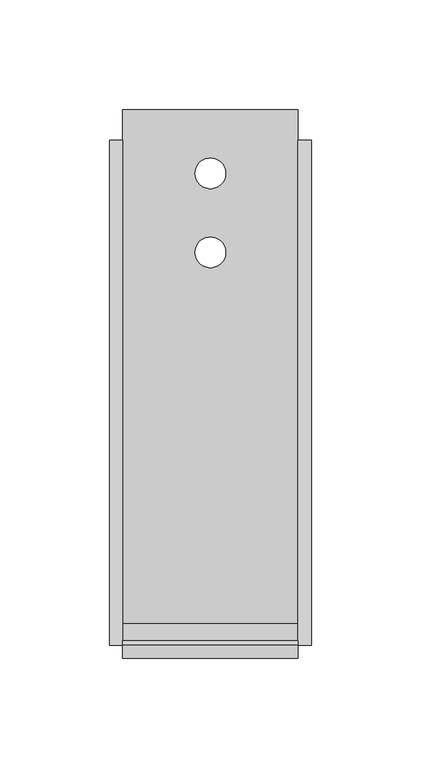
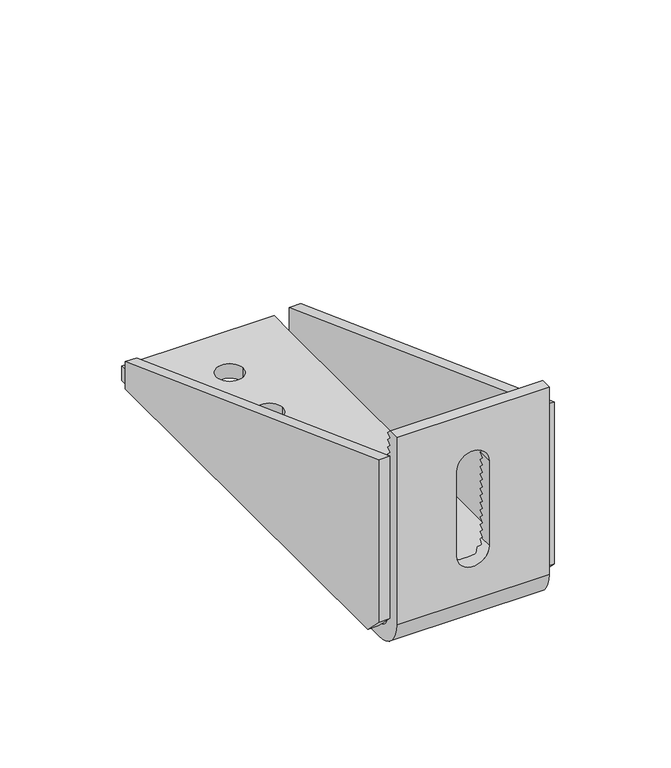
"""IFC4 building model written with IfcOpenShell, lengths in millimetres: fastener geometry, REC-PARA2501208RT : PARA2501208RT."""

from ifc_helpers import new_model, si_unit, frame, origin, place, context, project, spatial, polyline, circle_curve, ellipse_curve, source, transform, mapped, element, save
from ifc_brep_helpers import plane_surface, cylinder_surface, revolved_surface, advanced_brep


def fastener_ba279adf(model_context):
    return source(origin(), model_context, "Body", "AdvancedBrep", [
        advanced_brep(
        [(-40.0, 6.0, 120.0), (-40.0, 8.0, 118.0), (-40.0, 6.0, 116.0), (-40.0, 8.0, 114.0), (-40.0, 6.0, 112.0), (-40.0, 8.0, 110.0), (-40.0, 6.0, 108.0), (-40.0, 8.0, 106.0), (-40.0, 7.4603175, 105.4603175), (-40.0, 6.0, 106.0), (-40.0, 6.0, 104.0), (-40.0, 6.0, 100.0), (-40.0, 6.0, 96.0), (-40.0, 6.0, 92.0), (-40.0, 6.0, 88.0), (-40.0, 6.0, 84.0), (-40.0, 6.0, 80.0), (-40.0, 6.0, 76.0), (-40.0, 6.0, 72.0), (-40.0, 6.0, 68.0), (-40.0, 6.0, 64.0), (-40.0, 6.0, 60.0), (-40.0, 6.0, 56.0), (-40.0, 6.0, 52.0), (-40.0, 6.0, 48.0), (-40.0, 6.0, 44.0), (-40.0, 6.0, 40.0), (-40.0, 6.0, 36.0), (-40.0, 6.0, 32.0), (-40.0, 6.0, 28.0), (-40.0, 6.0, 24.0), (-40.0, 6.0, 16.0), (-40.0, 8.3542487, 13.6457513), (-40.0, 13.6457513, 8.3542487), (-40.0, 16.0, 6.0), (-40.0, 236.0, 6.0), (-40.0, 236.0, 8.0), (-40.0, 250.0, 8.0), (-40.0, 250.0, 0.0), (-40.0, 16.0, 0.0), (-40.0, 0.0, 16.0), (-40.0, 0.0, 120.0), (40.0, 6.0, 120.0), (40.0, 0.0, 120.0), (40.0, 0.0, 16.0), (40.0, 16.0, 0.0), (40.0, 250.0, 0.0), (40.0, 250.0, 8.0), (40.0, 236.0, 8.0), (40.0, 236.0, 6.0), (40.0, 16.0, 6.0), (40.0, 13.6457513, 8.3542487), (40.0, 8.3542487, 13.6457513), (40.0, 6.0, 16.0), (40.0, 6.0, 24.0), (40.0, 6.0, 28.0), (40.0, 6.0, 32.0), (40.0, 6.0, 36.0), (40.0, 6.0, 40.0), (40.0, 6.0, 44.0), (40.0, 6.0, 48.0), (40.0, 6.0, 52.0), (40.0, 6.0, 56.0), (40.0, 6.0, 60.0), (40.0, 6.0, 64.0), (40.0, 6.0, 68.0), (40.0, 6.0, 72.0), (40.0, 6.0, 76.0), (40.0, 6.0, 80.0), (40.0, 6.0, 84.0), (40.0, 6.0, 88.0), (40.0, 6.0, 92.0), (40.0, 6.0, 96.0), (40.0, 6.0, 100.0), (40.0, 6.0, 104.0), (40.0, 6.0, 106.0), (40.0, 7.4603175, 105.4603175), (40.0, 8.0, 106.0), (40.0, 6.0, 108.0), (40.0, 8.0, 110.0), (40.0, 6.0, 112.0), (40.0, 8.0, 114.0), (40.0, 6.0, 116.0), (40.0, 8.0, 118.0), (-8.5, 0.0, 90.0), (8.5, 0.0, 90.0), (8.5, 0.0, 43.0), (-8.5, 0.0, 43.0), (7.0, 221.0, 0.0), (-7.0, 221.0, 0.0), (7.0, 185.0, 0.0), (-7.0, 185.0, 0.0), (-40.0, 16.0, 8.0), (40.0, 16.0, 8.0), (-7.0, 221.0, 8.0), (7.0, 221.0, 8.0), (-7.0, 185.0, 8.0), (7.0, 185.0, 8.0), (-8.5, 7.0, 43.0), (-8.5, 6.0, 44.0), (-8.5, 8.0, 46.0), (-8.5, 6.0, 48.0), (-8.5, 8.0, 50.0), (-8.5, 6.0, 52.0), (-8.5, 8.0, 54.0), (-8.5, 6.0, 56.0), (-8.5, 8.0, 58.0), (-8.5, 6.0, 60.0), (-8.5, 8.0, 62.0), (-8.5, 6.0, 64.0), (-8.5, 8.0, 66.0), (-8.5, 6.0, 68.0), (-8.5, 8.0, 70.0), (-8.5, 6.0, 72.0), (-8.5, 8.0, 74.0), (-8.5, 6.0, 76.0), (-8.5, 8.0, 78.0), (-8.5, 6.0, 80.0), (-8.5, 8.0, 82.0), (-8.5, 6.0, 84.0), (-8.5, 8.0, 86.0), (-8.5, 6.0, 88.0), (-8.5, 8.0, 90.0), (8.5, 7.0, 43.0), (8.4409715, 8.0, 42.0), (7.9529869, 6.0, 40.0), (6.8738635, 8.0, 38.0), (4.8218254, 6.0, 36.0), (-4.8218254, 6.0, 36.0), (-6.8738635, 8.0, 38.0), (-7.9529869, 6.0, 40.0), (-8.4409715, 8.0, 42.0), (8.5, 8.0, 90.0), (8.5, 6.0, 88.0), (8.5, 8.0, 86.0), (8.5, 6.0, 84.0), (8.5, 8.0, 82.0), (8.5, 6.0, 80.0), (8.5, 8.0, 78.0), (8.5, 6.0, 76.0), (8.5, 8.0, 74.0), (8.5, 6.0, 72.0), (8.5, 8.0, 70.0), (8.5, 6.0, 68.0), (8.5, 8.0, 66.0), (8.5, 6.0, 64.0), (8.5, 8.0, 62.0), (8.5, 6.0, 60.0), (8.5, 8.0, 58.0), (8.5, 6.0, 56.0), (8.5, 8.0, 54.0), (8.5, 6.0, 52.0), (8.5, 8.0, 50.0), (8.5, 6.0, 48.0), (8.5, 8.0, 46.0), (8.5, 6.0, 44.0), (-8.2613558, 6.0, 92.0), (-7.5, 8.0, 94.0), (-6.0207973, 6.0, 96.0), (-2.8722813, 8.0, 98.0), (2.8722813, 8.0, 98.0), (6.0207973, 6.0, 96.0), (7.5, 8.0, 94.0), (8.2613558, 6.0, 92.0), (-40.0, 8.0, 16.0), (40.0, 8.0, 16.0), (-40.0, 8.0, 24.0), (40.0, 8.0, 24.0), (-40.0, 6.0, 24.0), (40.0, 6.0, 24.0), (46.0, 6.0, 106.0), (46.0, 6.0, 16.0), (46.0, 16.0, 6.0), (46.0, 236.0, 6.0), (46.0, 236.0, 21.0), (40.0, 236.0, 21.0), (40.0, 8.0, 26.0), (40.0, 6.0, 28.0), (40.0, 8.0, 30.0), (40.0, 6.0, 32.0), (40.0, 8.0, 34.0), (40.0, 6.0, 36.0), (40.0, 8.0, 38.0), (40.0, 6.0, 40.0), (40.0, 8.0, 42.0), (40.0, 6.0, 44.0), (40.0, 8.0, 46.0), (40.0, 6.0, 48.0), (40.0, 8.0, 50.0), (40.0, 6.0, 52.0), (40.0, 8.0, 54.0), (40.0, 6.0, 56.0), (40.0, 8.0, 58.0), (40.0, 6.0, 60.0), (40.0, 8.0, 62.0), (40.0, 6.0, 64.0), (40.0, 8.0, 66.0), (40.0, 6.0, 68.0), (40.0, 8.0, 70.0), (40.0, 6.0, 72.0), (40.0, 8.0, 74.0), (40.0, 6.0, 76.0), (40.0, 8.0, 78.0), (40.0, 6.0, 80.0), (40.0, 8.0, 82.0), (40.0, 6.0, 84.0), (40.0, 8.0, 86.0), (40.0, 6.0, 88.0), (40.0, 8.0, 90.0), (40.0, 6.0, 92.0), (40.0, 8.0, 94.0), (40.0, 6.0, 96.0), (40.0, 8.0, 98.0), (40.0, 6.0, 100.0), (40.0, 8.0, 102.0), (40.0, 6.0, 104.0), (-40.0, 236.0, 21.0), (-40.0, 6.0, 104.0), (-40.0, 8.0, 102.0), (-40.0, 6.0, 100.0), (-40.0, 8.0, 98.0), (-40.0, 6.0, 96.0), (-40.0, 8.0, 94.0), (-40.0, 6.0, 92.0), (-40.0, 8.0, 90.0), (-40.0, 6.0, 88.0), (-40.0, 8.0, 86.0), (-40.0, 6.0, 84.0), (-40.0, 8.0, 82.0), (-40.0, 6.0, 80.0), (-40.0, 8.0, 78.0), (-40.0, 6.0, 76.0), (-40.0, 8.0, 74.0), (-40.0, 6.0, 72.0), (-40.0, 8.0, 70.0), (-40.0, 6.0, 68.0), (-40.0, 8.0, 66.0), (-40.0, 6.0, 64.0), (-40.0, 8.0, 62.0), (-40.0, 6.0, 60.0), (-40.0, 8.0, 58.0), (-40.0, 6.0, 56.0), (-40.0, 8.0, 54.0), (-40.0, 6.0, 52.0), (-40.0, 8.0, 50.0), (-40.0, 6.0, 48.0), (-40.0, 8.0, 46.0), (-40.0, 6.0, 44.0), (-40.0, 8.0, 42.0), (-40.0, 6.0, 40.0), (-40.0, 8.0, 38.0), (-40.0, 6.0, 36.0), (-40.0, 8.0, 34.0), (-40.0, 6.0, 32.0), (-40.0, 8.0, 30.0), (-40.0, 6.0, 28.0), (-40.0, 8.0, 26.0), (-46.0, 6.0, 106.0), (-46.0, 236.0, 21.0), (-46.0, 236.0, 6.0), (-46.0, 16.0, 6.0), (-46.0, 6.0, 16.0)],
        [
            (0, 1),
            (1, 2),
            (2, 3),
            (3, 4),
            (4, 5),
            (5, 6),
            (6, 7),
            (7, 8),
            (8, 9),
            (9, 10),
            (10, 11),
            (11, 12),
            (12, 13),
            (13, 14),
            (14, 15),
            (15, 16),
            (16, 17),
            (17, 18),
            (18, 19),
            (19, 20),
            (20, 21),
            (21, 22),
            (22, 23),
            (23, 24),
            (24, 25),
            (25, 26),
            (26, 27),
            (27, 28),
            (28, 29),
            (29, 30),
            (30, 31),
            (31, 32),
            (32, 33, circle_curve(frame((-40.0, 16.0, 16.0), z_axis=(1.0, 0.0, 0.0), x_axis=(0.0, -1.0, 0.0)), 8.0)),
            (33, 34),
            (34, 35),
            (35, 36),
            (36, 37),
            (37, 38),
            (38, 39),
            (39, 40, circle_curve(frame((-40.0, 16.0, 16.0), z_axis=(-1.0, 0.0, 0.0), x_axis=(0.0, -1.0, 0.0)), 16.0)),
            (40, 41),
            (41, 0),
            (42, 43),
            (43, 44),
            (44, 45, circle_curve(frame((40.0, 16.0, 16.0), z_axis=(1.0, 0.0, 0.0), x_axis=(0.0, -1.0, 0.0)), 16.0)),
            (45, 46),
            (46, 47),
            (47, 48),
            (48, 49),
            (49, 50),
            (50, 51),
            (51, 52, circle_curve(frame((40.0, 16.0, 16.0), z_axis=(-1.0, 0.0, 0.0), x_axis=(0.0, -1.0, 0.0)), 8.0)),
            (52, 53),
            (53, 54),
            (54, 55),
            (55, 56),
            (56, 57),
            (57, 58),
            (58, 59),
            (59, 60),
            (60, 61),
            (61, 62),
            (62, 63),
            (63, 64),
            (64, 65),
            (65, 66),
            (66, 67),
            (67, 68),
            (68, 69),
            (69, 70),
            (70, 71),
            (71, 72),
            (72, 73),
            (73, 74),
            (74, 75),
            (75, 76),
            (76, 77),
            (77, 78),
            (78, 79),
            (79, 80),
            (80, 81),
            (81, 82),
            (82, 83),
            (83, 42),
            (41, 43),
            (42, 0),
            (40, 44),
            (84, 85, circle_curve(frame((0.0, 0.0, 90.0), z_axis=(0.0, 1.0, 0.0), x_axis=(-1.0, 0.0, 0.0)), 8.5)),
            (85, 86),
            (86, 87, circle_curve(frame((0.0, 0.0, 43.0), z_axis=(0.0, 1.0, 0.0), x_axis=(-1.0, 0.0, 0.0)), 8.5)),
            (87, 84),
            (38, 46),
            (45, 39),
            (88, 89, circle_curve(frame((0.0, 221.0, 0.0), z_axis=(0.0, 0.0, 1.0), x_axis=(-1.0, 0.0, 0.0)), 7.0)),
            (89, 88, circle_curve(frame((0.0, 221.0, 0.0), z_axis=(0.0, 0.0, 1.0), x_axis=(-1.0, 0.0, 0.0)), 7.0)),
            (90, 91, circle_curve(frame((0.0, 185.0, 0.0), z_axis=(0.0, 0.0, 1.0), x_axis=(-1.0, 0.0, 0.0)), 7.0)),
            (91, 90, circle_curve(frame((0.0, 185.0, 0.0), z_axis=(0.0, 0.0, 1.0), x_axis=(-1.0, 0.0, 0.0)), 7.0)),
            (37, 47),
            (36, 92),
            (92, 93),
            (93, 48),
            (94, 95, circle_curve(frame((0.0, 221.0, 8.0), z_axis=(0.0, 0.0, -1.0), x_axis=(-1.0, 0.0, 0.0)), 7.0)),
            (95, 94, circle_curve(frame((0.0, 221.0, 8.0), z_axis=(0.0, 0.0, -1.0), x_axis=(-1.0, 0.0, 0.0)), 7.0)),
            (96, 97, circle_curve(frame((0.0, 185.0, 8.0), z_axis=(0.0, 0.0, -1.0), x_axis=(-1.0, 0.0, 0.0)), 7.0)),
            (97, 96, circle_curve(frame((0.0, 185.0, 8.0), z_axis=(0.0, 0.0, -1.0), x_axis=(-1.0, 0.0, 0.0)), 7.0)),
            (87, 98),
            (98, 99),
            (99, 100),
            (100, 101),
            (101, 102),
            (102, 103),
            (103, 104),
            (104, 105),
            (105, 106),
            (106, 107),
            (107, 108),
            (108, 109),
            (109, 110),
            (110, 111),
            (111, 112),
            (112, 113),
            (113, 114),
            (114, 115),
            (115, 116),
            (116, 117),
            (117, 118),
            (118, 119),
            (119, 120),
            (120, 121),
            (121, 122),
            (122, 84),
            (86, 123),
            (123, 124, ellipse_curve(frame((0.0, 7.0, 43.0), z_axis=(0.0, 0.7071067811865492, 0.7071067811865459), x_axis=(0.0, -0.7071067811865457, 0.7071067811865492)), 12.0208153, 8.5)),
            (124, 125, ellipse_curve(frame((0.0, 9.0, 43.0), z_axis=(0.0, 0.7071067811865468, -0.7071067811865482), x_axis=(0.0, -0.7071067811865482, -0.7071067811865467)), 12.0208153, 8.5)),
            (125, 126, ellipse_curve(frame((0.0, 3.0, 43.0), z_axis=(0.0, 0.7071067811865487, 0.7071067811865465), x_axis=(0.0, -0.7071067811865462, 0.7071067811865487)), 12.0208153, 8.5)),
            (126, 127, ellipse_curve(frame((0.0, 13.0, 43.0), z_axis=(0.0, 0.7071067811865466, -0.7071067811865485), x_axis=(0.0, -0.7071067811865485, -0.7071067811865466)), 12.0208153, 8.5)),
            (127, 128, ellipse_curve(frame((0.0, -1.0, 43.0), z_axis=(0.0, 0.7071067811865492, 0.7071067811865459), x_axis=(0.0, -0.7071067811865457, 0.7071067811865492)), 12.0208153, 8.5)),
            (128, 129, ellipse_curve(frame((0.0, 13.0, 43.0), z_axis=(0.0, 0.7071067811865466, -0.7071067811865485), x_axis=(0.0, -0.7071067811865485, -0.7071067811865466)), 12.0208153, 8.5)),
            (129, 130, ellipse_curve(frame((0.0, 3.0, 43.0), z_axis=(0.0, 0.7071067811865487, 0.7071067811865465), x_axis=(0.0, -0.7071067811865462, 0.7071067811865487)), 12.0208153, 8.5)),
            (130, 131, ellipse_curve(frame((0.0, 9.0, 43.0), z_axis=(0.0, 0.7071067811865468, -0.7071067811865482), x_axis=(0.0, -0.7071067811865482, -0.7071067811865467)), 12.0208153, 8.5)),
            (131, 98, ellipse_curve(frame((0.0, 7.0, 43.0), z_axis=(0.0, 0.7071067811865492, 0.7071067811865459), x_axis=(0.0, -0.7071067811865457, 0.7071067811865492)), 12.0208153, 8.5)),
            (132, 133),
            (133, 134),
            (134, 135),
            (135, 136),
            (136, 137),
            (137, 138),
            (138, 139),
            (139, 140),
            (140, 141),
            (141, 142),
            (142, 143),
            (143, 144),
            (144, 145),
            (145, 146),
            (146, 147),
            (147, 148),
            (148, 149),
            (149, 150),
            (150, 151),
            (151, 152),
            (152, 153),
            (153, 154),
            (154, 155),
            (155, 123),
            (85, 132),
            (122, 156, ellipse_curve(frame((0.0, 8.0, 90.0), z_axis=(0.0, 0.7071067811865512, 0.7071067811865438), x_axis=(0.0, -0.7071067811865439, 0.7071067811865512)), 12.0208153, 8.5)),
            (156, 157, ellipse_curve(frame((0.0, 4.0, 90.0), z_axis=(0.0, 0.7071067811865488, -0.7071067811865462), x_axis=(0.0, -0.7071067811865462, -0.7071067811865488)), 12.0208153, 8.5)),
            (157, 158, ellipse_curve(frame((0.0, 12.0, 90.0), z_axis=(0.0, 0.7071067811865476, 0.7071067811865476), x_axis=(0.0, -0.7071067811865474, 0.7071067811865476)), 12.0208153, 8.5)),
            (158, 159, ellipse_curve(frame((0.0, 0.0, 90.0), z_axis=(0.0, 0.7071067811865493, -0.7071067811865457), x_axis=(0.0, -0.7071067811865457, -0.7071067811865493)), 12.0208153, 8.5)),
            (159, 160, ellipse_curve(frame((0.0, 16.0, 90.0), z_axis=(0.0, 0.70710678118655, 0.7071067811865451), x_axis=(0.0, -0.7071067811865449, 0.70710678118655)), 12.0208153, 8.5)),
            (160, 161, ellipse_curve(frame((0.0, 0.0, 90.0), z_axis=(0.0, 0.7071067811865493, -0.7071067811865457), x_axis=(0.0, -0.7071067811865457, -0.7071067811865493)), 12.0208153, 8.5)),
            (161, 162, ellipse_curve(frame((0.0, 12.0, 90.0), z_axis=(0.0, 0.7071067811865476, 0.7071067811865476), x_axis=(0.0, -0.7071067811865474, 0.7071067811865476)), 12.0208153, 8.5)),
            (162, 163, ellipse_curve(frame((0.0, 4.0, 90.0), z_axis=(0.0, 0.7071067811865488, -0.7071067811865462), x_axis=(0.0, -0.7071067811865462, -0.7071067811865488)), 12.0208153, 8.5)),
            (163, 132, ellipse_curve(frame((0.0, 8.0, 90.0), z_axis=(0.0, 0.7071067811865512, 0.7071067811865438), x_axis=(0.0, -0.7071067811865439, 0.7071067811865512)), 12.0208153, 8.5)),
            (89, 94),
            (95, 88),
            (91, 96),
            (97, 90),
            (92, 33, circle_curve(frame((-40.0, 16.0, 16.0), z_axis=(-1.0, 0.0, 0.0), x_axis=(0.0, -1.0, 0.0)), 8.0)),
            (32, 164, circle_curve(frame((-40.0, 16.0, 16.0), z_axis=(-1.0, 0.0, 0.0), x_axis=(0.0, -1.0, 0.0)), 8.0)),
            (164, 165),
            (165, 52, circle_curve(frame((40.0, 16.0, 16.0), z_axis=(1.0, 0.0, 0.0), x_axis=(0.0, -1.0, 0.0)), 8.0)),
            (51, 93, circle_curve(frame((40.0, 16.0, 16.0), z_axis=(1.0, 0.0, 0.0), x_axis=(0.0, -1.0, 0.0)), 8.0)),
            (164, 166),
            (166, 167),
            (167, 165),
            (166, 168),
            (168, 169),
            (169, 167),
            (170, 171),
            (171, 172),
            (172, 173),
            (173, 174),
            (174, 170),
            (175, 48),
            (51, 52),
            (169, 176),
            (176, 177),
            (177, 178),
            (178, 179),
            (179, 180),
            (180, 181),
            (181, 182),
            (182, 183),
            (183, 184),
            (184, 185),
            (185, 186),
            (186, 187),
            (187, 188),
            (188, 189),
            (189, 190),
            (190, 191),
            (191, 192),
            (192, 193),
            (193, 194),
            (194, 195),
            (195, 196),
            (196, 197),
            (197, 198),
            (198, 199),
            (199, 200),
            (200, 201),
            (201, 202),
            (202, 203),
            (203, 204),
            (204, 205),
            (205, 206),
            (206, 207),
            (207, 208),
            (208, 209),
            (209, 210),
            (210, 211),
            (211, 212),
            (212, 213),
            (213, 214),
            (214, 215),
            (215, 76),
            (76, 175),
            (170, 75),
            (53, 171),
            (172, 50),
            (49, 173),
            (174, 175),
            (216, 8),
            (8, 217),
            (217, 218),
            (218, 219),
            (219, 220),
            (220, 221),
            (221, 222),
            (222, 223),
            (223, 224),
            (224, 225),
            (225, 226),
            (226, 227),
            (227, 228),
            (228, 229),
            (229, 230),
            (230, 231),
            (231, 232),
            (232, 233),
            (233, 234),
            (234, 235),
            (235, 236),
            (236, 237),
            (237, 238),
            (238, 239),
            (239, 240),
            (240, 241),
            (241, 242),
            (242, 243),
            (243, 244),
            (244, 245),
            (245, 246),
            (246, 247),
            (247, 248),
            (248, 249),
            (249, 250),
            (250, 251),
            (251, 252),
            (252, 253),
            (253, 254),
            (254, 255),
            (255, 256),
            (256, 168),
            (32, 33),
            (36, 216),
            (257, 258),
            (258, 259),
            (259, 260),
            (260, 261),
            (261, 257),
            (261, 31),
            (9, 257),
            (259, 35),
            (34, 260),
            (216, 258),
            (256, 176),
            (255, 177),
            (254, 178),
            (253, 179),
            (252, 180),
            (251, 128),
            (127, 181),
            (126, 182),
            (250, 129),
            (125, 183),
            (249, 130),
            (124, 184),
            (248, 131),
            (155, 185),
            (247, 99),
            (154, 186),
            (246, 100),
            (153, 187),
            (245, 101),
            (152, 188),
            (244, 102),
            (151, 189),
            (243, 103),
            (150, 190),
            (242, 104),
            (149, 191),
            (241, 105),
            (148, 192),
            (240, 106),
            (147, 193),
            (239, 107),
            (146, 194),
            (238, 108),
            (145, 195),
            (237, 109),
            (144, 196),
            (236, 110),
            (143, 197),
            (235, 111),
            (142, 198),
            (234, 112),
            (141, 199),
            (233, 113),
            (140, 200),
            (232, 114),
            (139, 201),
            (231, 115),
            (138, 202),
            (230, 116),
            (137, 203),
            (229, 117),
            (136, 204),
            (228, 118),
            (135, 205),
            (227, 119),
            (134, 206),
            (226, 120),
            (133, 207),
            (225, 121),
            (132, 208),
            (224, 122),
            (163, 209),
            (223, 156),
            (162, 210),
            (222, 157),
            (161, 211),
            (221, 158),
            (160, 212),
            (220, 159),
            (219, 213),
            (218, 214),
            (217, 215),
            (7, 77),
            (6, 78),
            (5, 79),
            (4, 80),
            (3, 81),
            (2, 82),
            (1, 83),
        ],
        [
            plane_surface(frame((-40.0, 0.0, 120.0), z_axis=(-1.0, 0.0, 0.0), x_axis=(0.0, -1.0, 0.0))),
            plane_surface(frame((40.0, 0.0, 120.0), z_axis=(1.0, 0.0, 0.0), x_axis=(0.0, 1.0, 0.0))),
            plane_surface(frame((-40.0, 6.0, 120.0), z_axis=(0.0, 0.0, 1.0), x_axis=(1.0, 0.0, 0.0))),
            plane_surface(frame((-40.0, 0.0, 120.0), z_axis=(0.0, -1.0, 0.0), x_axis=(1.0, 0.0, 0.0))),
            plane_surface(frame((-40.0, 16.0, 0.0), z_axis=(0.0, 0.0, -1.0), x_axis=(1.0, 0.0, 0.0))),
            plane_surface(frame((-40.0, 250.0, 0.0), z_axis=(0.0, 1.0, 0.0), x_axis=(1.0, 0.0, 0.0))),
            plane_surface(frame((-40.0, 250.0, 8.0), z_axis=(0.0, 0.0, 1.0), x_axis=(1.0, 0.0, 0.0))),
            plane_surface(frame((-8.5, 0.0, 43.0), z_axis=(1.0, 0.0, 0.0), x_axis=(0.0, 1.0, 0.0))),
            revolved_surface(polyline([(-8.5, -9.500000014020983, 43.0), (-8.5, 21.500000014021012, 43.0)]), (0.0, 8.0, 43.0), (0.0, -1.0, 0.0)),
            plane_surface(frame((8.5, 0.0, 90.0), z_axis=(-1.0, 0.0, 0.0), x_axis=(0.0, 1.0, 0.0))),
            revolved_surface(polyline([(-8.5, -8.500000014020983, 90.0), (-8.5, 24.50000001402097, 90.0)]), (0.0, 8.0, 90.0), (0.0, -1.0, 0.0)),
            revolved_surface(polyline([(-7.0, 221.0, 8.0), (-7.0, 221.0, 0.0)]), (0.0, 221.0, 0.0), (0.0, 0.0, 1.0)),
            revolved_surface(polyline([(-7.0, 185.0, 8.0), (-7.0, 185.0, 0.0)]), (0.0, 185.0, 0.0), (0.0, 0.0, 1.0)),
            cylinder_surface(frame((40.0, 16.0, 16.0), z_axis=(-1.0, 0.0, 0.0), x_axis=(0.0, -1.0, 0.0)), 16.0),
            revolved_surface(polyline([(40.0, 8.0, 16.0), (-40.0, 8.0, 16.0)]), (40.0, 16.0, 16.0), (1.0, 0.0, 0.0)),
            plane_surface(frame((-40.0, 8.0, 16.0), z_axis=(0.0, 1.0, 0.0), x_axis=(1.0, 0.0, 0.0))),
            plane_surface(frame((-40.0, 8.0, 24.0), z_axis=(0.0, 0.0, 1.0), x_axis=(1.0, 0.0, 0.0))),
            plane_surface(frame((46.0, 241.2478235, 19.060587), z_axis=(1.0, 0.0, 0.0), x_axis=(0.0, 0.937994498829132, -0.3466501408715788))),
            plane_surface(frame((40.0, 241.2478235, 19.060587), z_axis=(-1.0, 0.0, 0.0), x_axis=(0.0, -0.937994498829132, 0.3466501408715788))),
            plane_surface(frame((46.0, 6.0, 16.0), z_axis=(0.0, -1.0, 0.0), x_axis=(-1.0, 0.0, 0.0))),
            plane_surface(frame((46.0, 236.0, 6.0), z_axis=(0.0, 0.0, -1.0), x_axis=(-1.0, 0.0, 0.0))),
            plane_surface(frame((46.0, 6.0, 106.0), z_axis=(0.0, 0.3466501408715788, 0.937994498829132), x_axis=(-1.0, 0.0, 0.0))),
            plane_surface(frame((46.0, 236.0, 21.0), z_axis=(0.0, 1.0, 0.0), x_axis=(-1.0, 0.0, 0.0))),
            plane_surface(frame((46.0, 16.0, 6.0), z_axis=(0.0, -0.7071067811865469, -0.7071067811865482), x_axis=(-1.0, 0.0, 0.0))),
            plane_surface(frame((-40.0, 241.2478235, 19.060587), z_axis=(1.0, 0.0, 0.0), x_axis=(0.0, 0.9379944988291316, -0.3466501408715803))),
            plane_surface(frame((-46.0, 241.2478235, 19.060587), z_axis=(-1.0, 0.0, 0.0), x_axis=(0.0, -0.9379944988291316, 0.3466501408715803))),
            plane_surface(frame((-40.0, 6.0, 16.0), z_axis=(0.0, -1.0, 0.0), x_axis=(-1.0, 0.0, 0.0))),
            plane_surface(frame((-40.0, 236.0, 6.0), z_axis=(0.0, 0.0, -1.0), x_axis=(-1.0, 0.0, 0.0))),
            plane_surface(frame((-40.0, 6.0, 106.0), z_axis=(0.0, 0.3466501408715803, 0.9379944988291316), x_axis=(-1.0, 0.0, 0.0))),
            plane_surface(frame((-40.0, 236.0, 21.0), z_axis=(0.0, 1.0, 0.0), x_axis=(-1.0, 0.0, 0.0))),
            plane_surface(frame((-40.0, 16.0, 6.0), z_axis=(0.0, -0.7071067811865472, -0.7071067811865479), x_axis=(-1.0, 0.0, 0.0))),
            plane_surface(frame((-40.0, 6.0, 24.0), z_axis=(0.0, 0.7071067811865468, -0.7071067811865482), x_axis=(1.0, 0.0, 0.0))),
            plane_surface(frame((-40.0, 8.0, 26.0), z_axis=(0.0, 0.7071067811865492, 0.7071067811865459), x_axis=(1.0, 0.0, 0.0))),
            plane_surface(frame((-40.0, 6.0, 28.0), z_axis=(0.0, 0.7071067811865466, -0.7071067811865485), x_axis=(1.0, 0.0, 0.0))),
            plane_surface(frame((-40.0, 8.0, 30.0), z_axis=(0.0, 0.7071067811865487, 0.7071067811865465), x_axis=(1.0, 0.0, 0.0))),
            plane_surface(frame((-40.0, 6.0, 32.0), z_axis=(0.0, 0.7071067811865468, -0.7071067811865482), x_axis=(1.0, 0.0, 0.0))),
            plane_surface(frame((-40.0, 8.0, 34.0), z_axis=(0.0, 0.7071067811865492, 0.7071067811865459), x_axis=(1.0, 0.0, 0.0))),
            plane_surface(frame((-40.0, 6.0, 36.0), z_axis=(0.0, 0.7071067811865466, -0.7071067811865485), x_axis=(1.0, 0.0, 0.0))),
            plane_surface(frame((-40.0, 8.0, 38.0), z_axis=(0.0, 0.7071067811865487, 0.7071067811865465), x_axis=(1.0, 0.0, 0.0))),
            plane_surface(frame((-40.0, 6.0, 40.0), z_axis=(0.0, 0.7071067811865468, -0.7071067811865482), x_axis=(1.0, 0.0, 0.0))),
            plane_surface(frame((-40.0, 8.0, 42.0), z_axis=(0.0, 0.7071067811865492, 0.7071067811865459), x_axis=(1.0, 0.0, 0.0))),
            plane_surface(frame((-40.0, 6.0, 44.0), z_axis=(0.0, 0.7071067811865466, -0.7071067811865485), x_axis=(1.0, 0.0, 0.0))),
            plane_surface(frame((-40.0, 8.0, 46.0), z_axis=(0.0, 0.7071067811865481, 0.707106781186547), x_axis=(1.0, 0.0, 0.0))),
            plane_surface(frame((-40.0, 6.0, 48.0), z_axis=(0.0, 0.707106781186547, -0.7071067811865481), x_axis=(1.0, 0.0, 0.0))),
            plane_surface(frame((-40.0, 8.0, 50.0), z_axis=(0.0, 0.7071067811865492, 0.7071067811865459), x_axis=(1.0, 0.0, 0.0))),
            plane_surface(frame((-40.0, 6.0, 52.0), z_axis=(0.0, 0.7071067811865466, -0.7071067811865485), x_axis=(1.0, 0.0, 0.0))),
            plane_surface(frame((-40.0, 8.0, 54.0), z_axis=(0.0, 0.7071067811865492, 0.7071067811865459), x_axis=(1.0, 0.0, 0.0))),
            plane_surface(frame((-40.0, 6.0, 56.0), z_axis=(0.0, 0.7071067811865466, -0.7071067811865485), x_axis=(1.0, 0.0, 0.0))),
            plane_surface(frame((-40.0, 8.0, 58.0), z_axis=(0.0, 0.7071067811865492, 0.7071067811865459), x_axis=(1.0, 0.0, 0.0))),
            plane_surface(frame((-40.0, 6.0, 60.0), z_axis=(0.0, 0.7071067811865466, -0.7071067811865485), x_axis=(1.0, 0.0, 0.0))),
            plane_surface(frame((-40.0, 8.0, 62.0), z_axis=(0.0, 0.7071067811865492, 0.7071067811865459), x_axis=(1.0, 0.0, 0.0))),
            plane_surface(frame((-40.0, 6.0, 64.0), z_axis=(0.0, 0.7071067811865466, -0.7071067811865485), x_axis=(1.0, 0.0, 0.0))),
            plane_surface(frame((-40.0, 8.0, 66.0), z_axis=(0.0, 0.7071067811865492, 0.7071067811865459), x_axis=(1.0, 0.0, 0.0))),
            plane_surface(frame((-40.0, 6.0, 68.0), z_axis=(0.0, 0.7071067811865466, -0.7071067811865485), x_axis=(1.0, 0.0, 0.0))),
            plane_surface(frame((-40.0, 8.0, 70.0), z_axis=(0.0, 0.7071067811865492, 0.7071067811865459), x_axis=(1.0, 0.0, 0.0))),
            plane_surface(frame((-40.0, 6.0, 72.0), z_axis=(0.0, 0.7071067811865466, -0.7071067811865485), x_axis=(1.0, 0.0, 0.0))),
            plane_surface(frame((-40.0, 8.0, 74.0), z_axis=(0.0, 0.7071067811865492, 0.7071067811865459), x_axis=(1.0, 0.0, 0.0))),
            plane_surface(frame((-40.0, 6.0, 76.0), z_axis=(0.0, 0.7071067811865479, -0.7071067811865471), x_axis=(1.0, 0.0, 0.0))),
            plane_surface(frame((-40.0, 8.0, 78.0), z_axis=(0.0, 0.7071067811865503, 0.7071067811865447), x_axis=(1.0, 0.0, 0.0))),
            plane_surface(frame((-40.0, 6.0, 80.0), z_axis=(0.0, 0.7071067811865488, -0.7071067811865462), x_axis=(1.0, 0.0, 0.0))),
            plane_surface(frame((-40.0, 8.0, 82.0), z_axis=(0.0, 0.7071067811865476, 0.7071067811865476), x_axis=(1.0, 0.0, 0.0))),
            plane_surface(frame((-40.0, 6.0, 84.0), z_axis=(0.0, 0.7071067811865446, -0.7071067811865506), x_axis=(1.0, 0.0, 0.0))),
            plane_surface(frame((-40.0, 8.0, 86.0), z_axis=(0.0, 0.7071067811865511, 0.707106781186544), x_axis=(1.0, 0.0, 0.0))),
            plane_surface(frame((-40.0, 6.0, 88.0), z_axis=(0.0, 0.7071067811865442, -0.7071067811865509), x_axis=(1.0, 0.0, 0.0))),
            plane_surface(frame((-40.0, 8.0, 90.0), z_axis=(0.0, 0.7071067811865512, 0.7071067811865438), x_axis=(1.0, 0.0, 0.0))),
            plane_surface(frame((-40.0, 6.0, 92.0), z_axis=(0.0, 0.7071067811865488, -0.7071067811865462), x_axis=(1.0, 0.0, 0.0))),
            plane_surface(frame((-40.0, 8.0, 94.0), z_axis=(0.0, 0.7071067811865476, 0.7071067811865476), x_axis=(1.0, 0.0, 0.0))),
            plane_surface(frame((-40.0, 6.0, 96.0), z_axis=(0.0, 0.7071067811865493, -0.7071067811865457), x_axis=(1.0, 0.0, 0.0))),
            plane_surface(frame((-40.0, 8.0, 98.0), z_axis=(0.0, 0.70710678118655, 0.7071067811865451), x_axis=(1.0, 0.0, 0.0))),
            plane_surface(frame((-40.0, 6.0, 100.0), z_axis=(0.0, 0.7071067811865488, -0.7071067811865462), x_axis=(1.0, 0.0, 0.0))),
            plane_surface(frame((-40.0, 8.0, 102.0), z_axis=(0.0, 0.7071067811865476, 0.7071067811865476), x_axis=(1.0, 0.0, 0.0))),
            plane_surface(frame((-40.0, 6.0, 104.0), z_axis=(0.0, 0.7071067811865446, -0.7071067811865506), x_axis=(1.0, 0.0, 0.0))),
            plane_surface(frame((-40.0, 8.0, 106.0), z_axis=(0.0, 0.7071067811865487, 0.7071067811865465), x_axis=(1.0, 0.0, 0.0))),
            plane_surface(frame((-40.0, 6.0, 108.0), z_axis=(0.0, 0.7071067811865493, -0.7071067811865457), x_axis=(1.0, 0.0, 0.0))),
            plane_surface(frame((-40.0, 8.0, 110.0), z_axis=(0.0, 0.70710678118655, 0.7071067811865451), x_axis=(1.0, 0.0, 0.0))),
            plane_surface(frame((-40.0, 6.0, 112.0), z_axis=(0.0, 0.7071067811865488, -0.7071067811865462), x_axis=(1.0, 0.0, 0.0))),
            plane_surface(frame((-40.0, 8.0, 114.0), z_axis=(0.0, 0.7071067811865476, 0.7071067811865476), x_axis=(1.0, 0.0, 0.0))),
            plane_surface(frame((-40.0, 6.0, 116.0), z_axis=(0.0, 0.7071067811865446, -0.7071067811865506), x_axis=(1.0, 0.0, 0.0))),
            plane_surface(frame((-40.0, 8.0, 118.0), z_axis=(0.0, 0.7071067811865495, 0.7071067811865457), x_axis=(1.0, 0.0, 0.0))),
        ],
        [
            (0, [[1, 2, 3, 4, 5, 6, 7, 8, 9, 10, 11, 12, 13, 14, 15, 16, 17, 18, 19, 20, 21, 22, 23, 24, 25, 26, 27, 28, 29, 30, 31, 32, 33, 34, 35, 36, 37, 38, 39, 40, 41, 42]]),
            (1, [[43, 44, 45, 46, 47, 48, 49, 50, 51, 52, 53, 54, 55, 56, 57, 58, 59, 60, 61, 62, 63, 64, 65, 66, 67, 68, 69, 70, 71, 72, 73, 74, 75, 76, 77, 78, 79, 80, 81, 82, 83, 84]]),
            (2, [[85, -43, 86, -42]]),
            (3, [[87, -44, -85, -41], [88, 89, 90, 91]]),
            (4, [[92, -46, 93, -39], [94, 95], [96, 97]]),
            (5, [[98, -47, -92, -38]]),
            (6, [[-37, 99, 100, 101, -48, -98], [102, 103], [104, 105]]),
            (7, [[-91, 106, 107, 108, 109, 110, 111, 112, 113, 114, 115, 116, 117, 118, 119, 120, 121, 122, 123, 124, 125, 126, 127, 128, 129, 130, 131]]),
            (8, [[-90, 132, 133, 134, 135, 136, 137, 138, 139, 140, 141, -106]]),
            (9, [[142, 143, 144, 145, 146, 147, 148, 149, 150, 151, 152, 153, 154, 155, 156, 157, 158, 159, 160, 161, 162, 163, 164, 165, -132, -89, 166]]),
            (10, [[167, 168, 169, 170, 171, 172, 173, 174, 175, -166, -88, -131]]),
            (11, [[-95, 176, -103, 177]]),
            (11, [[-102, -176, -94, -177]]),
            (12, [[-97, 178, -105, 179]]),
            (12, [[-104, -178, -96, -179]]),
            (13, [[-93, -45, -87, -40]]),
            (14, [[180, -33, 181, 182, 183, -52, 184, -100]]),
            (15, [[185, 186, 187, -182]]),
            (16, [[188, 189, 190, -186]]),
            (17, [[191, 192, 193, 194, 195]]),
            (18, [[196, -101, -184, 197, -183, -187, -190, 198, 199, 200, 201, 202, 203, 204, 205, 206, 207, 208, 209, 210, 211, 212, 213, 214, 215, 216, 217, 218, 219, 220, 221, 222, 223, 224, 225, 226, 227, 228, 229, 230, 231, 232, 233, 234, 235, 236, 237, 238, 239]]),
            (19, [[240, -75, -74, -73, -72, -71, -70, -69, -68, -67, -66, -65, -64, -63, -62, -61, -60, -59, -58, -57, -56, -55, -54, 241, -191]]),
            (20, [[242, -50, 243, -193]]),
            (21, [[244, -239, -76, -240, -195]]),
            (22, [[-243, -49, -196, -244, -194]]),
            (23, [[-241, -53, -197, -51, -242, -192]]),
            (24, [[245, 246, 247, 248, 249, 250, 251, 252, 253, 254, 255, 256, 257, 258, 259, 260, 261, 262, 263, 264, 265, 266, 267, 268, 269, 270, 271, 272, 273, 274, 275, 276, 277, 278, 279, 280, 281, 282, 283, 284, 285, 286, -188, -185, -181, 287, -180, -99, 288]]),
            (25, [[289, 290, 291, 292, 293]]),
            (26, [[294, -31, -30, -29, -28, -27, -26, -25, -24, -23, -22, -21, -20, -19, -18, -17, -16, -15, -14, -13, -12, -11, -10, 295, -293]]),
            (27, [[296, -35, 297, -291]]),
            (28, [[-295, -9, -245, 298, -289]]),
            (29, [[-298, -288, -36, -296, -290]]),
            (30, [[-297, -34, -287, -32, -294, -292]]),
            (31, [[-286, 299, -198, -189]]),
            (32, [[-285, 300, -199, -299]]),
            (33, [[-284, 301, -200, -300]]),
            (34, [[-283, 302, -201, -301]]),
            (35, [[-282, 303, -202, -302]]),
            (36, [[-281, 304, -137, 305, -203, -303]]),
            (37, [[-136, 306, -204, -305]]),
            (37, [[-280, 307, -138, -304]]),
            (38, [[-135, 308, -205, -306]]),
            (38, [[-279, 309, -139, -307]]),
            (39, [[-134, 310, -206, -308]]),
            (39, [[-278, 311, -140, -309]]),
            (40, [[-133, -165, 312, -207, -310]]),
            (40, [[-277, 313, -107, -141, -311]]),
            (41, [[-164, 314, -208, -312]]),
            (41, [[-276, 315, -108, -313]]),
            (42, [[-163, 316, -209, -314]]),
            (42, [[-275, 317, -109, -315]]),
            (43, [[-162, 318, -210, -316]]),
            (43, [[-274, 319, -110, -317]]),
            (44, [[-161, 320, -211, -318]]),
            (44, [[-273, 321, -111, -319]]),
            (45, [[-160, 322, -212, -320]]),
            (45, [[-272, 323, -112, -321]]),
            (46, [[-159, 324, -213, -322]]),
            (46, [[-271, 325, -113, -323]]),
            (47, [[-158, 326, -214, -324]]),
            (47, [[-270, 327, -114, -325]]),
            (48, [[-157, 328, -215, -326]]),
            (48, [[-269, 329, -115, -327]]),
            (49, [[-156, 330, -216, -328]]),
            (49, [[-268, 331, -116, -329]]),
            (50, [[-155, 332, -217, -330]]),
            (50, [[-267, 333, -117, -331]]),
            (51, [[-154, 334, -218, -332]]),
            (51, [[-266, 335, -118, -333]]),
            (52, [[-153, 336, -219, -334]]),
            (52, [[-265, 337, -119, -335]]),
            (53, [[-152, 338, -220, -336]]),
            (53, [[-264, 339, -120, -337]]),
            (54, [[-151, 340, -221, -338]]),
            (54, [[-263, 341, -121, -339]]),
            (55, [[-150, 342, -222, -340]]),
            (55, [[-262, 343, -122, -341]]),
            (56, [[-149, 344, -223, -342]]),
            (56, [[-261, 345, -123, -343]]),
            (57, [[-148, 346, -224, -344]]),
            (57, [[-260, 347, -124, -345]]),
            (58, [[-147, 348, -225, -346]]),
            (58, [[-259, 349, -125, -347]]),
            (59, [[-146, 350, -226, -348]]),
            (59, [[-258, 351, -126, -349]]),
            (60, [[-145, 352, -227, -350]]),
            (60, [[-257, 353, -127, -351]]),
            (61, [[-144, 354, -228, -352]]),
            (61, [[-256, 355, -128, -353]]),
            (62, [[-143, 356, -229, -354]]),
            (62, [[-255, 357, -129, -355]]),
            (63, [[-142, 358, -230, -356]]),
            (63, [[-254, 359, -130, -357]]),
            (64, [[-175, 360, -231, -358]]),
            (64, [[-253, 361, -167, -359]]),
            (65, [[-174, 362, -232, -360]]),
            (65, [[-252, 363, -168, -361]]),
            (66, [[-173, 364, -233, -362]]),
            (66, [[-251, 365, -169, -363]]),
            (67, [[-172, 366, -234, -364]]),
            (67, [[-250, 367, -170, -365]]),
            (68, [[-235, -366, -171, -367, -249, 368]]),
            (69, [[-248, 369, -236, -368]]),
            (70, [[-247, 370, -237, -369]]),
            (71, [[-246, -8, 371, -77, -238, -370]]),
            (72, [[372, -78, -371, -7]]),
            (73, [[373, -79, -372, -6]]),
            (74, [[374, -80, -373, -5]]),
            (75, [[375, -81, -374, -4]]),
            (76, [[376, -82, -375, -3]]),
            (77, [[377, -83, -376, -2]]),
            (78, [[-86, -84, -377, -1]]),
        ],
    ),
    ])


if __name__ == "__main__":
    model = new_model("IFC4")
    model_context = context("Model", 3, world=origin())
    ifc_project = project(units=[si_unit("LENGTHUNIT", "METRE", prefix="MILLI")], contexts=[model_context])
    site = spatial("IfcSite", under=ifc_project)
    building = spatial("IfcBuilding", under=site)
    placement = place(None, origin())
    fastener_shape = fastener_ba279adf(model_context)
    element("IfcFastener", 1, ObjectType="REC-PARA2501208RT : PARA2501208RT", at=placement, inside=building, context=model_context, shape_type="MappedRepresentation", body=[
        mapped(fastener_shape, transform((0.0, 0.0, 0.0), x_axis=(1.0, 0.0, 0.0), y_axis=(0.0, 1.0, 0.0), z_axis=(0.0, 0.0, 1.0))),
    ])
    save(model, "model.ifc")
